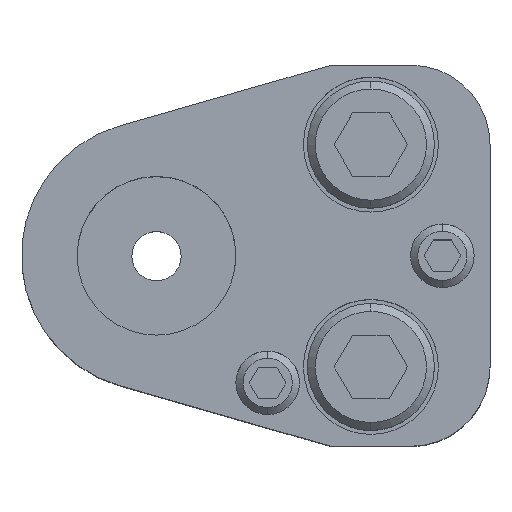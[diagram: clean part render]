
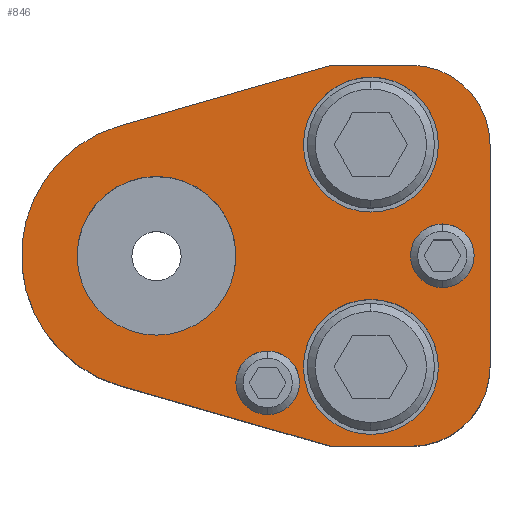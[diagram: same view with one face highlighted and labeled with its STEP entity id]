
A CAD part, top view. The second image highlights one B-rep face of the part: STEP entity #846.
In plain terms, the highlighted planar face has unit normal (0, 0, 1).
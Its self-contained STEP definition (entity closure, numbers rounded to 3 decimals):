
#461=LINE('',#4196,#659);
#466=LINE('',#4211,#664);
#470=LINE('',#4223,#668);
#475=LINE('',#4232,#673);
#480=LINE('',#4246,#678);
#659=VECTOR('',#3371,1.);
#664=VECTOR('',#3384,1.);
#668=VECTOR('',#3396,1.);
#673=VECTOR('',#3403,1.);
#678=VECTOR('',#3416,1.);
#846=ADVANCED_FACE('',(#979,#980,#981,#982,#983,#984),#943,.T.);
#943=PLANE('',#2837);
#979=FACE_BOUND('',#1131,.T.);
#980=FACE_BOUND('',#1132,.T.);
#981=FACE_BOUND('',#1133,.T.);
#982=FACE_BOUND('',#1134,.T.);
#983=FACE_BOUND('',#1135,.T.);
#984=FACE_BOUND('',#1136,.T.);
#1131=EDGE_LOOP('',(#1676,#1677,#1678,#1679,#1680,#1681,#1682,#1683));
#1132=EDGE_LOOP('',(#1684,#1685));
#1133=EDGE_LOOP('',(#1686,#1687));
#1134=EDGE_LOOP('',(#1688,#1689));
#1135=EDGE_LOOP('',(#1690,#1691));
#1136=EDGE_LOOP('',(#1692,#1693));
#1676=ORIENTED_EDGE('',*,*,#2340,.T.);
#1677=ORIENTED_EDGE('',*,*,#2322,.T.);
#1678=ORIENTED_EDGE('',*,*,#2326,.T.);
#1679=ORIENTED_EDGE('',*,*,#2329,.T.);
#1680=ORIENTED_EDGE('',*,*,#2332,.T.);
#1681=ORIENTED_EDGE('',*,*,#2335,.T.);
#1682=ORIENTED_EDGE('',*,*,#2347,.T.);
#1683=ORIENTED_EDGE('',*,*,#2343,.T.);
#1684=ORIENTED_EDGE('',*,*,#2382,.F.);
#1685=ORIENTED_EDGE('',*,*,#2383,.F.);
#1686=ORIENTED_EDGE('',*,*,#2384,.F.);
#1687=ORIENTED_EDGE('',*,*,#2385,.F.);
#1688=ORIENTED_EDGE('',*,*,#2372,.F.);
#1689=ORIENTED_EDGE('',*,*,#2368,.F.);
#1690=ORIENTED_EDGE('',*,*,#2366,.F.);
#1691=ORIENTED_EDGE('',*,*,#2362,.F.);
#1692=ORIENTED_EDGE('',*,*,#2386,.T.);
#1693=ORIENTED_EDGE('',*,*,#2387,.T.);
#2023=VERTEX_POINT('',#4195);
#2024=VERTEX_POINT('',#4197);
#2027=VERTEX_POINT('',#4204);
#2029=VERTEX_POINT('',#4210);
#2031=VERTEX_POINT('',#4216);
#2033=VERTEX_POINT('',#4222);
#2037=VERTEX_POINT('',#4233);
#2039=VERTEX_POINT('',#4239);
#2053=VERTEX_POINT('',#4279);
#2054=VERTEX_POINT('',#4280);
#2057=VERTEX_POINT('',#4291);
#2058=VERTEX_POINT('',#4292);
#2065=VERTEX_POINT('',#4319);
#2066=VERTEX_POINT('',#4320);
#2067=VERTEX_POINT('',#4323);
#2068=VERTEX_POINT('',#4324);
#2069=VERTEX_POINT('',#4327);
#2070=VERTEX_POINT('',#4328);
#2322=EDGE_CURVE('',#2024,#2023,#461,.T.);
#2326=EDGE_CURVE('',#2023,#2027,#2547,.T.);
#2329=EDGE_CURVE('',#2027,#2029,#466,.T.);
#2332=EDGE_CURVE('',#2029,#2031,#2549,.T.);
#2335=EDGE_CURVE('',#2031,#2033,#470,.T.);
#2340=EDGE_CURVE('',#2037,#2024,#475,.T.);
#2343=EDGE_CURVE('',#2039,#2037,#2552,.T.);
#2347=EDGE_CURVE('',#2033,#2039,#480,.T.);
#2362=EDGE_CURVE('',#2053,#2054,#2561,.T.);
#2366=EDGE_CURVE('',#2054,#2053,#2563,.T.);
#2368=EDGE_CURVE('',#2057,#2058,#2565,.T.);
#2372=EDGE_CURVE('',#2058,#2057,#2567,.T.);
#2382=EDGE_CURVE('',#2065,#2066,#2573,.T.);
#2383=EDGE_CURVE('',#2066,#2065,#2574,.T.);
#2384=EDGE_CURVE('',#2067,#2068,#2575,.T.);
#2385=EDGE_CURVE('',#2068,#2067,#2576,.T.);
#2386=EDGE_CURVE('',#2069,#2070,#2577,.T.);
#2387=EDGE_CURVE('',#2070,#2069,#2578,.T.);
#2547=CIRCLE('',#2788,10.);
#2549=CIRCLE('',#2792,10.);
#2552=CIRCLE('',#2798,17.);
#2561=CIRCLE('',#2811,4.);
#2563=CIRCLE('',#2814,4.);
#2565=CIRCLE('',#2817,4.);
#2567=CIRCLE('',#2820,4.);
#2573=CIRCLE('',#2831,8.5);
#2574=CIRCLE('',#2832,8.5);
#2575=CIRCLE('',#2833,8.5);
#2576=CIRCLE('',#2834,8.5);
#2577=CIRCLE('',#2835,10.);
#2578=CIRCLE('',#2836,10.);
#2788=AXIS2_PLACEMENT_3D('',#4205,#3377,#3378);
#2792=AXIS2_PLACEMENT_3D('',#4217,#3389,#3390);
#2798=AXIS2_PLACEMENT_3D('',#4238,#3409,#3410);
#2811=AXIS2_PLACEMENT_3D('',#4278,#3444,#3445);
#2814=AXIS2_PLACEMENT_3D('',#4287,#3452,#3453);
#2817=AXIS2_PLACEMENT_3D('',#4290,#3458,#3459);
#2820=AXIS2_PLACEMENT_3D('',#4299,#3466,#3467);
#2831=AXIS2_PLACEMENT_3D('',#4318,#3492,#3493);
#2832=AXIS2_PLACEMENT_3D('',#4321,#3494,#3495);
#2833=AXIS2_PLACEMENT_3D('',#4322,#3496,#3497);
#2834=AXIS2_PLACEMENT_3D('',#4325,#3498,#3499);
#2835=AXIS2_PLACEMENT_3D('',#4326,#3500,#3501);
#2836=AXIS2_PLACEMENT_3D('',#4329,#3502,#3503);
#2837=AXIS2_PLACEMENT_3D('',#4330,#3504,#3505);
#3371=DIRECTION('',(1.,0.,0.));
#3377=DIRECTION('',(0.,0.,1.));
#3378=DIRECTION('',(-0.707,0.707,0.));
#3384=DIRECTION('',(0.,1.,0.));
#3389=DIRECTION('',(0.,0.,1.));
#3390=DIRECTION('',(-0.707,-0.707,0.));
#3396=DIRECTION('',(-1.,0.,0.));
#3403=DIRECTION('',(0.961,-0.276,0.));
#3409=DIRECTION('',(0.,0.,1.));
#3410=DIRECTION('',(1.,0.,0.));
#3416=DIRECTION('',(-0.961,-0.276,0.));
#3444=DIRECTION('',(0.,0.,1.));
#3445=DIRECTION('',(-1.,0.,0.));
#3452=DIRECTION('',(0.,0.,1.));
#3453=DIRECTION('',(1.,0.,0.));
#3458=DIRECTION('',(0.,0.,1.));
#3459=DIRECTION('',(-1.,0.,0.));
#3466=DIRECTION('',(0.,0.,1.));
#3467=DIRECTION('',(1.,0.,0.));
#3492=DIRECTION('',(0.,0.,1.));
#3493=DIRECTION('',(1.,0.,0.));
#3494=DIRECTION('',(0.,0.,1.));
#3495=DIRECTION('',(-1.,0.,0.));
#3496=DIRECTION('',(0.,0.,1.));
#3497=DIRECTION('',(1.,0.,0.));
#3498=DIRECTION('',(0.,0.,1.));
#3499=DIRECTION('',(-1.,0.,0.));
#3500=DIRECTION('',(0.,0.,-1.));
#3501=DIRECTION('',(-1.,0.,0.));
#3502=DIRECTION('',(0.,0.,-1.));
#3503=DIRECTION('',(1.,0.,0.));
#3504=DIRECTION('',(0.,0.,1.));
#3505=DIRECTION('',(0.961,-0.276,0.));
#4195=CARTESIAN_POINT('',(32.,-24.,35.));
#4196=CARTESIAN_POINT('',(22.,-24.,35.));
#4197=CARTESIAN_POINT('',(22.,-24.,35.));
#4204=CARTESIAN_POINT('',(42.,-14.,35.));
#4205=CARTESIAN_POINT('',(32.,-14.,35.));
#4210=CARTESIAN_POINT('',(42.,14.,35.));
#4211=CARTESIAN_POINT('',(42.,14.,35.));
#4216=CARTESIAN_POINT('',(32.,24.,35.));
#4217=CARTESIAN_POINT('',(32.,14.,35.));
#4222=CARTESIAN_POINT('',(22.,24.,35.));
#4223=CARTESIAN_POINT('',(22.,24.,35.));
#4232=CARTESIAN_POINT('',(22.,-24.,35.));
#4233=CARTESIAN_POINT('',(-4.69,-16.34,35.));
#4238=CARTESIAN_POINT('',(0.,0.,35.));
#4239=CARTESIAN_POINT('',(-4.69,16.34,35.));
#4246=CARTESIAN_POINT('',(22.,24.,35.));
#4278=CARTESIAN_POINT('',(14.,-16.,35.));
#4279=CARTESIAN_POINT('',(14.,-20.,35.));
#4280=CARTESIAN_POINT('',(14.,-12.,35.));
#4287=CARTESIAN_POINT('',(14.,-16.,35.));
#4290=CARTESIAN_POINT('',(36.,0.,35.));
#4291=CARTESIAN_POINT('',(36.,-4.,35.));
#4292=CARTESIAN_POINT('',(36.,4.,35.));
#4299=CARTESIAN_POINT('',(36.,0.,35.));
#4318=CARTESIAN_POINT('',(27.,14.,35.));
#4319=CARTESIAN_POINT('',(27.,22.5,35.));
#4320=CARTESIAN_POINT('',(27.,5.5,35.));
#4321=CARTESIAN_POINT('',(27.,14.,35.));
#4322=CARTESIAN_POINT('',(27.,-14.,35.));
#4323=CARTESIAN_POINT('',(27.,-5.5,35.));
#4324=CARTESIAN_POINT('',(27.,-22.5,35.));
#4325=CARTESIAN_POINT('',(27.,-14.,35.));
#4326=CARTESIAN_POINT('',(0.,0.,35.));
#4327=CARTESIAN_POINT('',(0.,10.,35.));
#4328=CARTESIAN_POINT('',(0.,-10.,35.));
#4329=CARTESIAN_POINT('',(0.,0.,35.));
#4330=CARTESIAN_POINT('',(-4.69,-16.34,35.));
